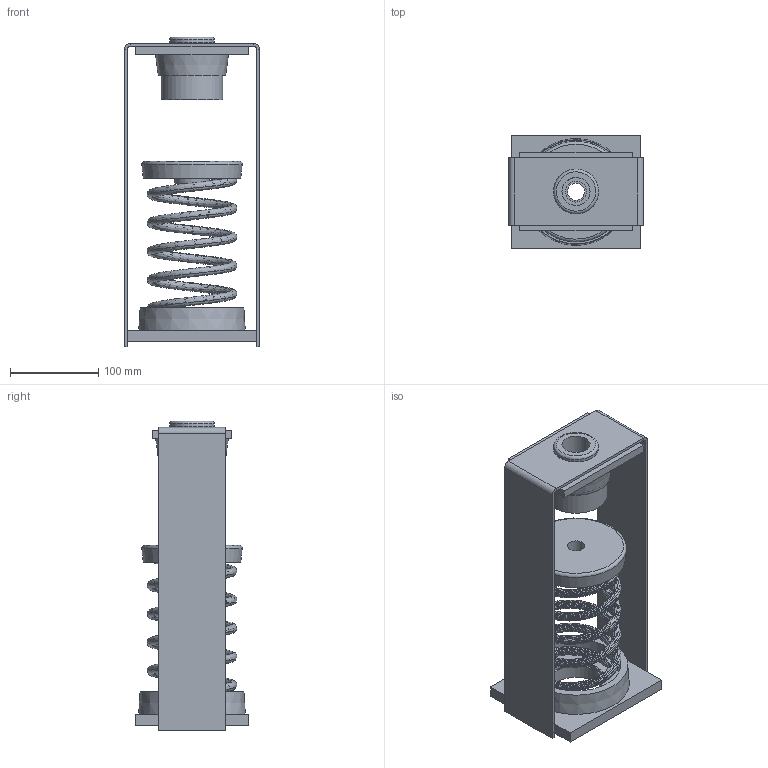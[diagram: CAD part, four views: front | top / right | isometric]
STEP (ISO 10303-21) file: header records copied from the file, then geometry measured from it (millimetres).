
FILE_DESCRIPTION(/* description */ (''),/* implementation_level */ '2;1');
FILE_NAME(/* name */ 'C:\001_Work\Designs\HANGER BOXES\30N 100 SERIES\30N-101-107, 126-129\30N-129.stp',/* time_stamp */ '2015-05-22T17:22:46-04:00',/* author */ ('rramoutar'),/* organization */ ('Mason Industries Inc.'),/* preprocessor_version */ 'ST-DEVELOPER v15.2',/* originating_system */ 'Autodesk Inventor 2014',/* authorisation */ '');
FILE_SCHEMA (('AUTOMOTIVE_DESIGN { 1 0 10303 214 3 1 1 }'));
Length unit declared in the file: inch
Products named in the file (1): 30N-129
Bounding box: 152.4 x 127 x 350.04 mm (x, y, z)
Volume: 933079.5 mm3; surface area: 426254.2 mm2
Topology: 10 solids, 10 shells, 121 faces, 247 edges, 159 vertices
Faces by surface type: plane 61, cylinder 31, bspline 22, cone 5, torus 2
Full cylindrical faces by diameter (mm): 19.447 x1, 23.812 x1, 31.75 x1, 31.996 x1, 34.925 x1, 36.8 x1, 38.1 x3, 50.8 x1, 60.325 x1, 63.5 x3, 66.675 x2, 69.85 x3, 74.612 x1, 74.9 x1, 100.806 x1, 103.981 x1, 107.95 x2
Entity records: 11742 total; most frequent: CARTESIAN_POINT 9216, DIRECTION 438, ORIENTED_EDGE 424, EDGE_CURVE 212, EDGE_LOOP 186, AXIS2_PLACEMENT_3D 174, VERTEX_POINT 156, STYLED_ITEM 131
